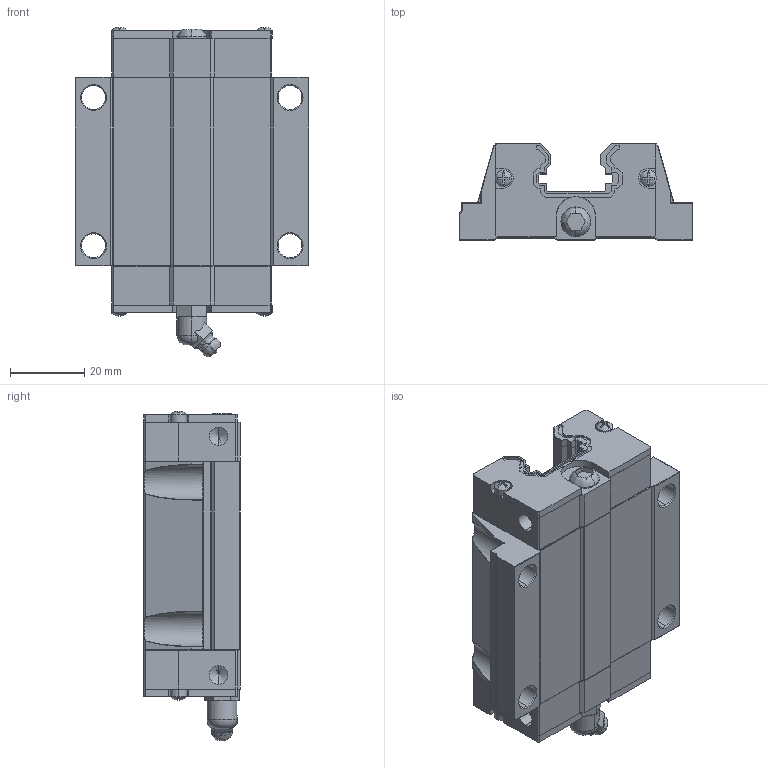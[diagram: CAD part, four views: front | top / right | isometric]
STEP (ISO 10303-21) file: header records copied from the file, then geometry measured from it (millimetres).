
FILE_DESCRIPTION (( 'STEP AP214' ), '1' );
FILE_NAME ('TRH20-A_HGW20CA.STEP', '2020-10-01T13:39:32', ( '' ), ( '' ), 'SwSTEP 2.0', 'SolidWorks 2018', '' );
FILE_SCHEMA (( 'AUTOMOTIVE_DESIGN' ));
Length unit declared in the file: millimetre
Products named in the file (7): TRH20-A_HGW20CA-4; TRH20-A_HGW20CA-6_M3*4; TRH20-A_HGW20CA-5_M3*6; TRH20-A_HGW20CA-3; TRH20-A_HGW20CA-2; TRH20-A_HGW20CA-1; TRH20-A_HGW20CA
Assembly tree (10 placements, depth 2):
  TRH20-A_HGW20CA
    TRH20-A_HGW20CA-1
    TRH20-A_HGW20CA-2
    TRH20-A_HGW20CA-3  x2
    TRH20-A_HGW20CA-5_M3*6  x4
    TRH20-A_HGW20CA-6_M3*4
    TRH20-A_HGW20CA-4
Bounding box: 63.1 x 26 x 88.95 mm (x, y, z)
Volume: 77959 mm3; surface area: 32243.3 mm2
Topology: 11 solids, 11 shells, 827 faces, 2112 edges, 1291 vertices
Faces by surface type: plane 458, cylinder 176, sphere 64, bspline 58, torus 37, cone 34
Entity records: 25939 total; most frequent: CARTESIAN_POINT 6201, ORIENTED_EDGE 3204, DIRECTION 3147, EDGE_CURVE 1602, AXIS2_PLACEMENT_3D 1066, VECTOR 1015, LINE 1015, VERTEX_POINT 982
